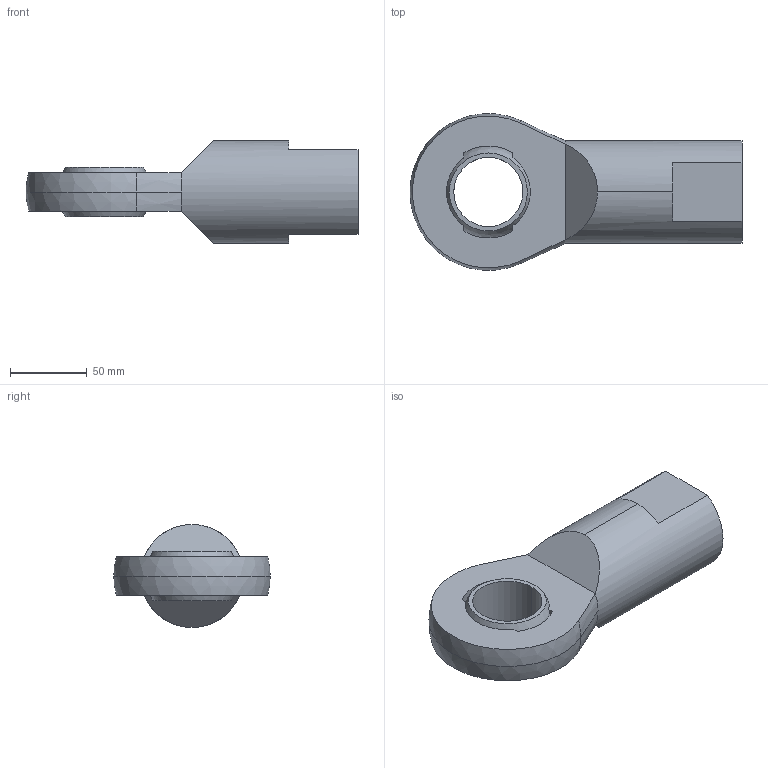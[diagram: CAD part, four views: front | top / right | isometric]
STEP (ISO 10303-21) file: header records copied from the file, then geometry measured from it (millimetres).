
FILE_DESCRIPTION (( 'STEP AP203' ), '1' );
FILE_NAME ('65880.W0245.step', '2014-02-06T18:33:19', ( 'User' ), ( '' ), 'SwSTEP 2.0', 'SolidWorks 2009', '' );
FILE_SCHEMA (( 'CONFIG_CONTROL_DESIGN' ));
Length unit declared in the file: millimetre
Products named in the file (3): Part2_65880.W0245; Part1_65880.W0245; 65880.W0245
Assembly tree (2 placements, depth 2):
  65880.W0245
    Part2_65880.W0245
    Part1_65880.W0245
Bounding box: 216 x 101.7 x 67 mm (x, y, z)
Volume: 425672 mm3; surface area: 72400.4 mm2
Topology: 2 solids, 2 shells, 45 faces, 108 edges, 67 vertices
Faces by surface type: plane 20, cylinder 10, sphere 8, cone 7
Entity records: 1624 total; most frequent: CARTESIAN_POINT 253, DIRECTION 253, ORIENTED_EDGE 208, AXIS2_PLACEMENT_3D 107, EDGE_CURVE 104, VERTEX_POINT 67, CIRCLE 57, EDGE_LOOP 53
